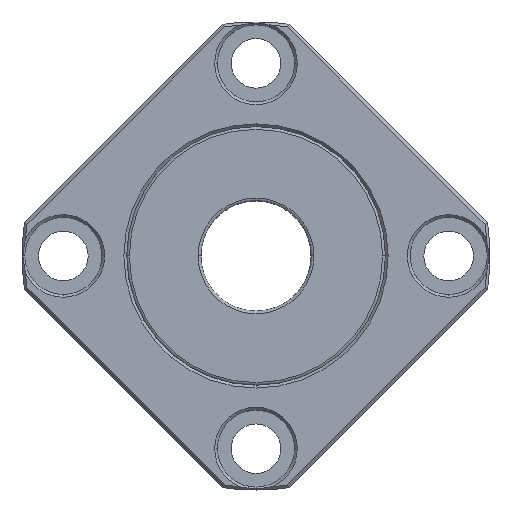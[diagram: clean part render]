
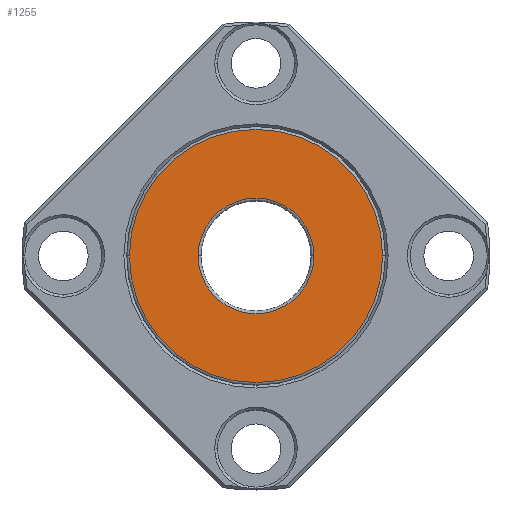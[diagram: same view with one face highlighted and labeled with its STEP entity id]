
A CAD part, top view. The second image highlights one B-rep face of the part: STEP entity #1255.
In plain terms, the highlighted planar face has unit normal (0, 0, 1).
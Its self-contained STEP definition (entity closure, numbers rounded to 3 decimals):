
#86 = EDGE_LOOP ( 'NONE', ( #206, #203 ) ) ;
#87 = EDGE_LOOP ( 'NONE', ( #205, #202 ) ) ;
#202 = ORIENTED_EDGE ( 'NONE', *, *, #1214, .T. ) ;
#203 = ORIENTED_EDGE ( 'NONE', *, *, #1180, .T. ) ;
#205 = ORIENTED_EDGE ( 'NONE', *, *, #1127, .T. ) ;
#206 = ORIENTED_EDGE ( 'NONE', *, *, #1105, .T. ) ;
#331 = VERTEX_POINT ( 'NONE', #1015 ) ;
#432 = VERTEX_POINT ( 'NONE', #785 ) ;
#433 = VERTEX_POINT ( 'NONE', #784 ) ;
#438 = VERTEX_POINT ( 'NONE', #779 ) ;
#557 = AXIS2_PLACEMENT_3D ( 'NONE', #1691, #1692, #1693 ) ;
#627 = AXIS2_PLACEMENT_3D ( 'NONE', #1794, #1795, #1796 ) ;
#697 = AXIS2_PLACEMENT_3D ( 'NONE', #1527, #1528, #1529 ) ;
#702 = AXIS2_PLACEMENT_3D ( 'NONE', #2406, #1462, #1463 ) ;
#779 = CARTESIAN_POINT ( 'NONE',  ( 23., 0., 7. ) ) ;
#784 = CARTESIAN_POINT ( 'NONE',  ( 10.5, 0., 7. ) ) ;
#785 = CARTESIAN_POINT ( 'NONE',  ( -10.5, 0., 7. ) ) ;
#1015 = CARTESIAN_POINT ( 'NONE',  ( -23., 0., 7. ) ) ;
#1024 = CIRCLE ( 'NONE', #702, 10.5 ) ;
#1035 = CIRCLE ( 'NONE', #697, 23. ) ;
#1105 = EDGE_CURVE ( 'NONE', #433, #432, #1024, .T. ) ;
#1127 = EDGE_CURVE ( 'NONE', #438, #331, #1035, .T. ) ;
#1180 = EDGE_CURVE ( 'NONE', #432, #433, #1365, .T. ) ;
#1214 = EDGE_CURVE ( 'NONE', #331, #438, #1389, .T. ) ;
#1255 = ADVANCED_FACE ( 'NONE', ( #2250, #2256 ), #1917, .T. ) ;
#1365 = CIRCLE ( 'NONE', #557, 10.5 ) ;
#1389 = CIRCLE ( 'NONE', #627, 23. ) ;
#1462 = DIRECTION ( 'NONE',  ( 0., 0., -1. ) ) ;
#1463 = DIRECTION ( 'NONE',  ( 1., 0., 0. ) ) ;
#1527 = CARTESIAN_POINT ( 'NONE',  ( 0., 0., 7. ) ) ;
#1528 = DIRECTION ( 'NONE',  ( 0., 0., 1. ) ) ;
#1529 = DIRECTION ( 'NONE',  ( 1., 0., 0. ) ) ;
#1691 = CARTESIAN_POINT ( 'NONE',  ( 0., 0., 7. ) ) ;
#1692 = DIRECTION ( 'NONE',  ( 0., 0., -1. ) ) ;
#1693 = DIRECTION ( 'NONE',  ( 1., 0., 0. ) ) ;
#1794 = CARTESIAN_POINT ( 'NONE',  ( 0., 0., 7. ) ) ;
#1795 = DIRECTION ( 'NONE',  ( 0., 0., 1. ) ) ;
#1796 = DIRECTION ( 'NONE',  ( 1., 0., 0. ) ) ;
#1917 = PLANE ( 'NONE',  #2258 ) ;
#1918 = CARTESIAN_POINT ( 'NONE',  ( 0., 0., 7. ) ) ;
#1919 = DIRECTION ( 'NONE',  ( 0., 0., 1. ) ) ;
#1920 = DIRECTION ( 'NONE',  ( 1., 0., 0. ) ) ;
#2250 = FACE_BOUND ( 'NONE', #86, .T. ) ;
#2256 = FACE_OUTER_BOUND ( 'NONE', #87, .T. ) ;
#2258 = AXIS2_PLACEMENT_3D ( 'NONE', #1918, #1919, #1920 ) ;
#2406 = CARTESIAN_POINT ( 'NONE',  ( 0., 0., 7. ) ) ;
